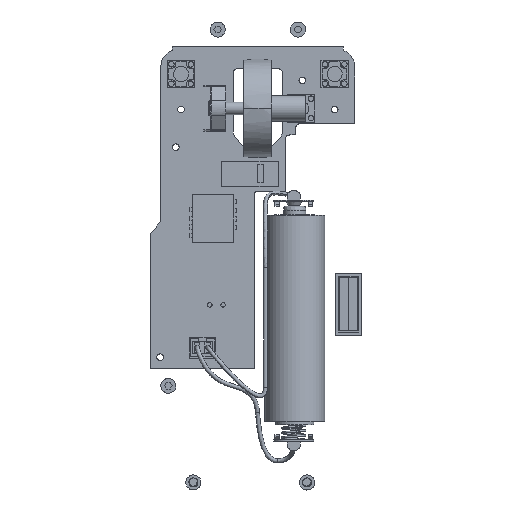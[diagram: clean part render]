
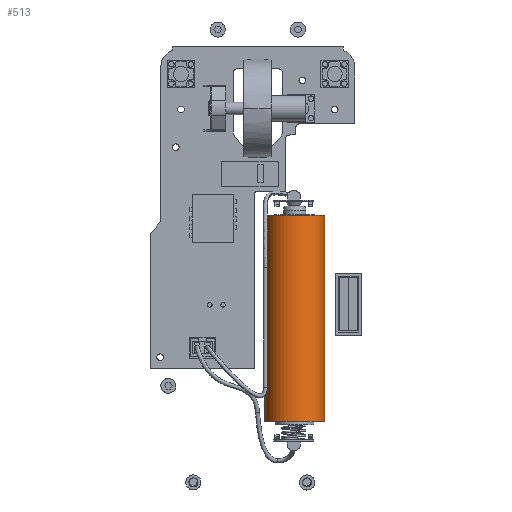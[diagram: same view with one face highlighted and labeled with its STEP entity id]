
A CAD part, top view. The second image highlights one B-rep face of the part: STEP entity #513.
In plain terms, the highlighted cylindrical face has radius 6.738 mm (diameter 13.477 mm), a partial arc.
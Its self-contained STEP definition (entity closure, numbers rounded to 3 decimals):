
#513=ADVANCED_FACE('',(#1508),#13561,.T.);
#1508=FACE_OUTER_BOUND('',#2477,.T.);
#2477=EDGE_LOOP('',(#5219,#5220,#5221,#5222));
#5219=ORIENTED_EDGE('',*,*,#8583,.F.);
#5220=ORIENTED_EDGE('',*,*,#8582,.F.);
#5221=ORIENTED_EDGE('',*,*,#8581,.T.);
#5222=ORIENTED_EDGE('',*,*,#8564,.F.);
#8564=EDGE_CURVE('',#12666,#12667,#10091,.T.);
#8581=EDGE_CURVE('',#12677,#12667,#10105,.T.);
#8582=EDGE_CURVE('',#12677,#12678,#10106,.T.);
#8583=EDGE_CURVE('',#12678,#12666,#10107,.T.);
#10091=(
BOUNDED_CURVE()
B_SPLINE_CURVE(1,(#20448,#20449),.UNSPECIFIED.,.F.,.F.)
B_SPLINE_CURVE_WITH_KNOTS((2,2),(-48.25,0.),.UNSPECIFIED.)
CURVE()
GEOMETRIC_REPRESENTATION_ITEM()
RATIONAL_B_SPLINE_CURVE((1.,1.))
REPRESENTATION_ITEM('')
);
#10105=(
BOUNDED_CURVE()
B_SPLINE_CURVE(2,(#20513,#20514,#20515,#20516,#20517,#20518,#20519),
 .UNSPECIFIED.,.F.,.F.)
B_SPLINE_CURVE_WITH_KNOTS((3,2,2,3),(0.,10.996,21.991,
27.33),.UNSPECIFIED.)
CURVE()
GEOMETRIC_REPRESENTATION_ITEM()
RATIONAL_B_SPLINE_CURVE((1.,0.707,1.,0.707,1.,0.928,
1.))
REPRESENTATION_ITEM('')
);
#10106=(
BOUNDED_CURVE()
B_SPLINE_CURVE(1,(#20520,#20521),.UNSPECIFIED.,.F.,.F.)
B_SPLINE_CURVE_WITH_KNOTS((2,2),(0.,48.25),.UNSPECIFIED.)
CURVE()
GEOMETRIC_REPRESENTATION_ITEM()
RATIONAL_B_SPLINE_CURVE((1.,1.))
REPRESENTATION_ITEM('')
);
#10107=(
BOUNDED_CURVE()
B_SPLINE_CURVE(2,(#20522,#20523,#20524,#20525,#20526,#20527,#20528),
 .UNSPECIFIED.,.F.,.F.)
B_SPLINE_CURVE_WITH_KNOTS((3,2,2,3),(0.,10.996,21.991,
27.33),.UNSPECIFIED.)
CURVE()
GEOMETRIC_REPRESENTATION_ITEM()
RATIONAL_B_SPLINE_CURVE((1.,0.707,1.,0.707,1.,0.928,
1.))
REPRESENTATION_ITEM('')
);
#12666=VERTEX_POINT('',#20428);
#12667=VERTEX_POINT('',#20429);
#12677=VERTEX_POINT('',#20439);
#12678=VERTEX_POINT('',#20440);
#13561=CYLINDRICAL_SURFACE('',#14808,6.738);
#14808=AXIS2_PLACEMENT_3D('',#20391,#15637,$);
#15637=DIRECTION('',(0.,1.,0.));
#20391=CARTESIAN_POINT('',(-1088.079,11924.121,7.916));
#20428=CARTESIAN_POINT('',(-1083.202,11947.344,3.267));
#20429=CARTESIAN_POINT('',(-1083.202,11900.898,3.267));
#20439=CARTESIAN_POINT('',(-1094.818,11900.898,7.916));
#20440=CARTESIAN_POINT('',(-1094.818,11947.344,7.916));
#20448=CARTESIAN_POINT('',(-1083.202,11947.344,3.267));
#20449=CARTESIAN_POINT('',(-1083.202,11900.898,3.267));
#20513=CARTESIAN_POINT('',(-1094.818,11900.898,7.916));
#20514=CARTESIAN_POINT('',(-1094.818,11900.898,14.654));
#20515=CARTESIAN_POINT('',(-1088.079,11900.898,14.654));
#20516=CARTESIAN_POINT('',(-1081.341,11900.898,14.654));
#20517=CARTESIAN_POINT('',(-1081.341,11900.898,7.916));
#20518=CARTESIAN_POINT('',(-1081.341,11900.898,5.219));
#20519=CARTESIAN_POINT('',(-1083.202,11900.898,3.267));
#20520=CARTESIAN_POINT('',(-1094.818,11900.898,7.916));
#20521=CARTESIAN_POINT('',(-1094.818,11947.344,7.916));
#20522=CARTESIAN_POINT('',(-1094.818,11947.344,7.916));
#20523=CARTESIAN_POINT('',(-1094.818,11947.344,14.654));
#20524=CARTESIAN_POINT('',(-1088.079,11947.344,14.654));
#20525=CARTESIAN_POINT('',(-1081.341,11947.344,14.654));
#20526=CARTESIAN_POINT('',(-1081.341,11947.344,7.916));
#20527=CARTESIAN_POINT('',(-1081.341,11947.344,5.219));
#20528=CARTESIAN_POINT('',(-1083.202,11947.344,3.267));
